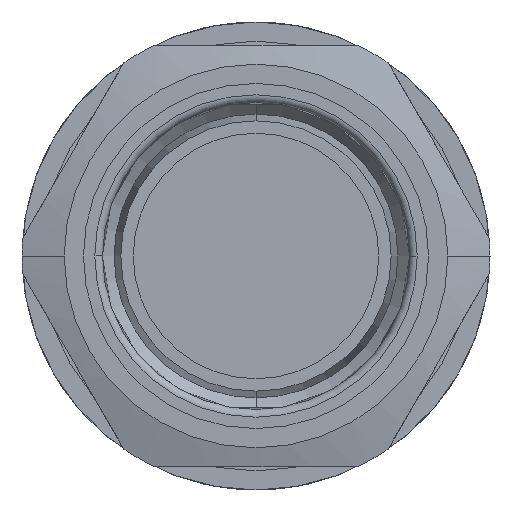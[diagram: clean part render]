
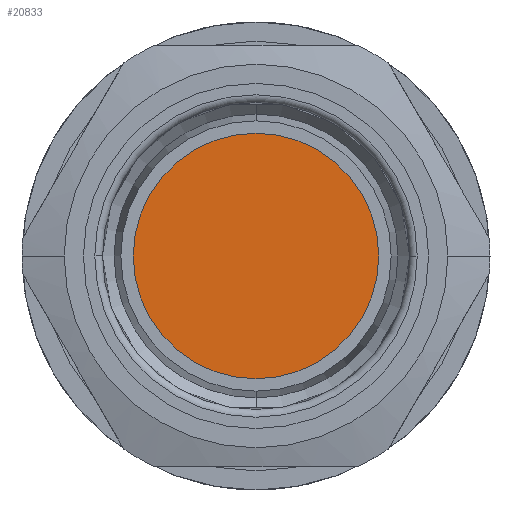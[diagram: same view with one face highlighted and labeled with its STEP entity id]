
A CAD part, front view. The second image highlights one B-rep face of the part: STEP entity #20833.
In plain terms, the highlighted planar face has unit normal (0, -1, 0).
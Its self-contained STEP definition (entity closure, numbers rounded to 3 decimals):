
#96 = AXIS2_PLACEMENT_3D ( 'NONE', #10128, #16400, #3554 ) ;
#573 = DIRECTION ( 'NONE',  ( 0., 0., 1. ) ) ;
#854 = VERTEX_POINT ( 'NONE', #13478 ) ;
#1012 = FACE_OUTER_BOUND ( 'NONE', #13510, .T. ) ;
#1249 = CARTESIAN_POINT ( 'NONE',  ( 0., 21.674, 0. ) ) ;
#1440 = EDGE_CURVE ( 'NONE', #7566, #854, #18211, .T. ) ;
#2102 = PLANE ( 'NONE',  #96 ) ;
#3554 = DIRECTION ( 'NONE',  ( 0., 0., 1. ) ) ;
#4477 = DIRECTION ( 'NONE',  ( 0., 0., 1. ) ) ;
#4979 = AXIS2_PLACEMENT_3D ( 'NONE', #13547, #18293, #573 ) ;
#7566 = VERTEX_POINT ( 'NONE', #17146 ) ;
#9172 = CIRCLE ( 'NONE', #4979, 16. ) ;
#10128 = CARTESIAN_POINT ( 'NONE',  ( 0., 21.674, 0. ) ) ;
#11152 = ORIENTED_EDGE ( 'NONE', *, *, #14735, .F. ) ;
#13478 = CARTESIAN_POINT ( 'NONE',  ( 0., 21.674, -16. ) ) ;
#13510 = EDGE_LOOP ( 'NONE', ( #14451, #11152 ) ) ;
#13547 = CARTESIAN_POINT ( 'NONE',  ( 0., 21.674, 0. ) ) ;
#14451 = ORIENTED_EDGE ( 'NONE', *, *, #1440, .F. ) ;
#14735 = EDGE_CURVE ( 'NONE', #854, #7566, #9172, .T. ) ;
#16400 = DIRECTION ( 'NONE',  ( 0., 1., 0. ) ) ;
#17146 = CARTESIAN_POINT ( 'NONE',  ( 0., 21.674, 16. ) ) ;
#17313 = AXIS2_PLACEMENT_3D ( 'NONE', #1249, #19280, #4477 ) ;
#18211 = CIRCLE ( 'NONE', #17313, 16. ) ;
#18293 = DIRECTION ( 'NONE',  ( 0., 1., 0. ) ) ;
#19280 = DIRECTION ( 'NONE',  ( 0., 1., 0. ) ) ;
#20833 = ADVANCED_FACE ( 'NONE', ( #1012 ), #2102, .F. ) ;
